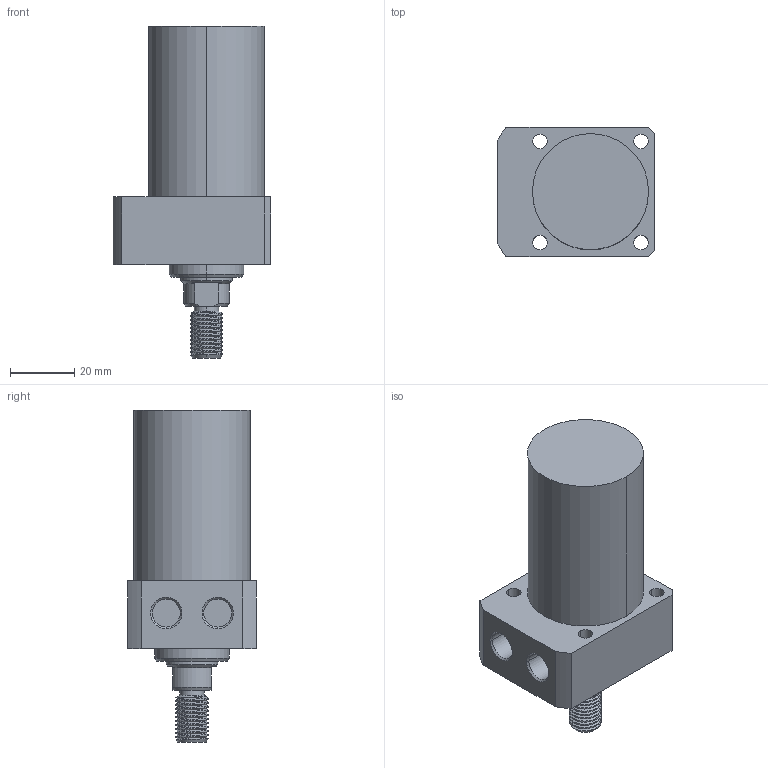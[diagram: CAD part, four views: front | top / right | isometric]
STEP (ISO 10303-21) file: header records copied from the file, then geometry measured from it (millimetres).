
FILE_DESCRIPTION((' '),'2;1');
FILE_NAME( 'TLLR-036CT-045.STEP.stp', '2025-10-24T16:35:47', (' '), ('--- Datakit www.datakit.com---'), ' Datakit CrossCadWare V2024.1 Dec 21 2023', 'Mastercam 2025', ' ');
FILE_SCHEMA(('AUTOMOTIVE_DESIGN { 1 0 10303 214 1 1 1 1 }'));
Length unit declared in the file: millimetre
Products named in the file (1): TLLR-036CT-045
Bounding box: 49 x 40 x 103 mm (x, y, z)
Volume: 95977.7 mm3; surface area: 16646.7 mm2
Topology: 1 solids, 1 shells, 87 faces, 290 edges, 213 vertices
Faces by surface type: cylinder 50, plane 21, cone 14, bspline 2
Entity records: 7393 total; most frequent: CARTESIAN_POINT 4774, ORIENTED_EDGE 580, DIRECTION 464, EDGE_CURVE 290, VERTEX_POINT 213, AXIS2_PLACEMENT_3D 187, EDGE_LOOP 103, CIRCLE 101
